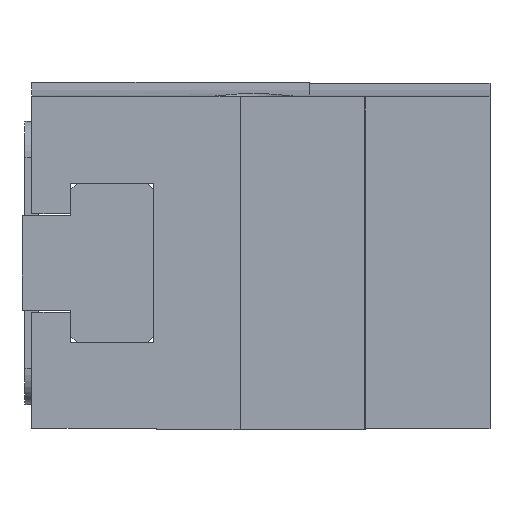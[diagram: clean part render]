
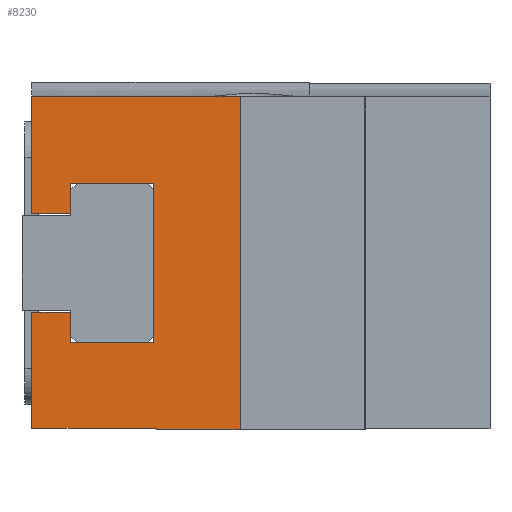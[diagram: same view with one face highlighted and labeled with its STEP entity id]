
A CAD part, left-side view. The second image highlights one B-rep face of the part: STEP entity #8230.
In plain terms, the highlighted planar face has unit normal (-1, 0, 0).
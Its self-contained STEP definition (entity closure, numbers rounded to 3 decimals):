
#85=DIRECTION('',(0.,-1.,0.));
#86=VECTOR('',#85,6.);
#87=CARTESIAN_POINT('',(-22.5,15.,-12.));
#88=LINE('',#87,#86);
#905=DIRECTION('',(0.,-1.,0.));
#906=VECTOR('',#905,15.);
#907=CARTESIAN_POINT('',(-22.5,24.,12.));
#908=LINE('',#907,#906);
#1888=DIRECTION('',(0.,-1.,0.));
#1889=VECTOR('',#1888,9.);
#1890=CARTESIAN_POINT('',(-22.5,24.,-11.9));
#1891=LINE('',#1890,#1889);
#1892=DIRECTION('',(0.,0.,1.));
#1893=VECTOR('',#1892,8.35);
#1894=CARTESIAN_POINT('',(-22.5,24.,-11.9));
#1895=LINE('',#1894,#1893);
#1896=DIRECTION('',(0.,-1.,0.));
#1897=VECTOR('',#1896,2.8);
#1898=CARTESIAN_POINT('',(-22.5,24.,-3.55));
#1899=LINE('',#1898,#1897);
#1900=DIRECTION('',(0.,0.,-1.));
#1901=VECTOR('',#1900,2.2);
#1902=CARTESIAN_POINT('',(-22.5,21.2,-3.55));
#1903=LINE('',#1902,#1901);
#1904=DIRECTION('',(0.,-1.,0.));
#1905=VECTOR('',#1904,6.);
#1906=CARTESIAN_POINT('',(-22.5,21.2,-5.75));
#1907=LINE('',#1906,#1905);
#1908=DIRECTION('',(0.,0.,1.));
#1909=VECTOR('',#1908,11.5);
#1910=CARTESIAN_POINT('',(-22.5,15.2,-5.75));
#1911=LINE('',#1910,#1909);
#1912=DIRECTION('',(0.,1.,0.));
#1913=VECTOR('',#1912,6.);
#1914=CARTESIAN_POINT('',(-22.5,15.2,5.75));
#1915=LINE('',#1914,#1913);
#1916=DIRECTION('',(0.,0.,-1.));
#1917=VECTOR('',#1916,2.2);
#1918=CARTESIAN_POINT('',(-22.5,21.2,5.75));
#1919=LINE('',#1918,#1917);
#1920=DIRECTION('',(0.,-1.,0.));
#1921=VECTOR('',#1920,2.8);
#1922=CARTESIAN_POINT('',(-22.5,24.,3.55));
#1923=LINE('',#1922,#1921);
#1924=DIRECTION('',(0.,0.,1.));
#1925=VECTOR('',#1924,8.45);
#1926=CARTESIAN_POINT('',(-22.5,24.,3.55));
#1927=LINE('',#1926,#1925);
#1928=DIRECTION('',(0.,0.,1.));
#1929=VECTOR('',#1928,24.);
#1930=CARTESIAN_POINT('',(-22.5,9.,-12.));
#1931=LINE('',#1930,#1929);
#1932=DIRECTION('',(0.,0.,1.));
#1933=VECTOR('',#1932,0.1);
#1934=CARTESIAN_POINT('',(-22.5,15.,-12.));
#1935=LINE('',#1934,#1933);
#4797=CARTESIAN_POINT('',(-22.5,24.,12.));
#4799=VERTEX_POINT('',#4797);
#4856=CARTESIAN_POINT('',(-22.5,24.,-3.55));
#4857=CARTESIAN_POINT('',(-22.5,21.2,-3.55));
#4858=VERTEX_POINT('',#4856);
#4859=VERTEX_POINT('',#4857);
#4860=CARTESIAN_POINT('',(-22.5,21.2,-5.75));
#4861=VERTEX_POINT('',#4860);
#4862=CARTESIAN_POINT('',(-22.5,15.2,-5.75));
#4863=VERTEX_POINT('',#4862);
#4864=CARTESIAN_POINT('',(-22.5,15.2,5.75));
#4865=VERTEX_POINT('',#4864);
#4866=CARTESIAN_POINT('',(-22.5,21.2,5.75));
#4867=VERTEX_POINT('',#4866);
#4868=CARTESIAN_POINT('',(-22.5,21.2,3.55));
#4869=VERTEX_POINT('',#4868);
#4870=CARTESIAN_POINT('',(-22.5,24.,3.55));
#4871=VERTEX_POINT('',#4870);
#5016=CARTESIAN_POINT('',(-22.5,9.,-12.));
#5018=VERTEX_POINT('',#5016);
#5024=CARTESIAN_POINT('',(-22.5,9.,12.));
#5026=VERTEX_POINT('',#5024);
#5064=CARTESIAN_POINT('',(-22.5,15.,-12.));
#5066=VERTEX_POINT('',#5064);
#5072=CARTESIAN_POINT('',(-22.5,24.,-11.9));
#5073=VERTEX_POINT('',#5072);
#5074=CARTESIAN_POINT('',(-22.5,15.,-11.9));
#5075=VERTEX_POINT('',#5074);
#8200=CARTESIAN_POINT('',(-22.5,24.,-12.));
#8201=DIRECTION('',(-1.,0.,0.));
#8202=DIRECTION('',(0.,-1.,0.));
#8203=AXIS2_PLACEMENT_3D('',#8200,#8201,#8202);
#8204=PLANE('',#8203);
#8205=ORIENTED_EDGE('',*,*,#8187,.F.);
#8206=ORIENTED_EDGE('',*,*,#6187,.T.);
#8208=ORIENTED_EDGE('',*,*,#8207,.T.);
#8210=ORIENTED_EDGE('',*,*,#8209,.T.);
#8212=ORIENTED_EDGE('',*,*,#8211,.T.);
#8214=ORIENTED_EDGE('',*,*,#8213,.T.);
#8216=ORIENTED_EDGE('',*,*,#8215,.T.);
#8218=ORIENTED_EDGE('',*,*,#8217,.T.);
#8220=ORIENTED_EDGE('',*,*,#8219,.F.);
#8221=ORIENTED_EDGE('',*,*,#6218,.T.);
#8222=ORIENTED_EDGE('',*,*,#6633,.T.);
#8224=ORIENTED_EDGE('',*,*,#8223,.F.);
#8225=ORIENTED_EDGE('',*,*,#6069,.F.);
#8227=ORIENTED_EDGE('',*,*,#8226,.T.);
#8228=EDGE_LOOP('',(#8205,#8206,#8208,#8210,#8212,#8214,#8216,#8218,#8220,#8221,
#8222,#8224,#8225,#8227));
#8229=FACE_OUTER_BOUND('',#8228,.F.);
#8230=ADVANCED_FACE('',(#8229),#8204,.T.);
#6069=EDGE_CURVE('',#5066,#5018,#88,.T.);
#6187=EDGE_CURVE('',#5073,#4858,#1895,.T.);
#6218=EDGE_CURVE('',#4871,#4799,#1927,.T.);
#6633=EDGE_CURVE('',#4799,#5026,#908,.T.);
#8187=EDGE_CURVE('',#5073,#5075,#1891,.T.);
#8207=EDGE_CURVE('',#4858,#4859,#1899,.T.);
#8209=EDGE_CURVE('',#4859,#4861,#1903,.T.);
#8211=EDGE_CURVE('',#4861,#4863,#1907,.T.);
#8213=EDGE_CURVE('',#4863,#4865,#1911,.T.);
#8215=EDGE_CURVE('',#4865,#4867,#1915,.T.);
#8217=EDGE_CURVE('',#4867,#4869,#1919,.T.);
#8219=EDGE_CURVE('',#4871,#4869,#1923,.T.);
#8223=EDGE_CURVE('',#5018,#5026,#1931,.T.);
#8226=EDGE_CURVE('',#5066,#5075,#1935,.T.);
